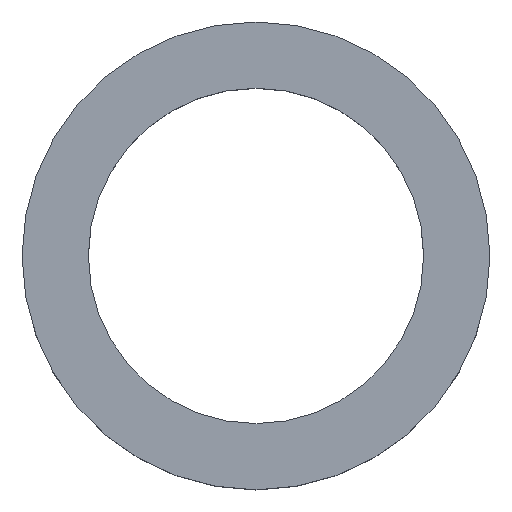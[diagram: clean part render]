
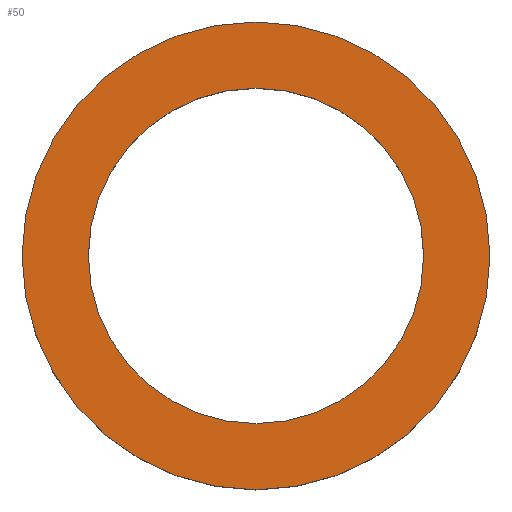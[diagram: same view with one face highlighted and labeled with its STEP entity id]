
A CAD part, top view. The second image highlights one B-rep face of the part: STEP entity #50.
In plain terms, the highlighted planar face has unit normal (0, 0, 1).
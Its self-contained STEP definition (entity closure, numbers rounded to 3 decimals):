
#21 = EDGE_CURVE('',#22,#22,#24,.T.);
#22 = VERTEX_POINT('',#23);
#23 = CARTESIAN_POINT('',(16.435,-13.435,22.));
#24 = CIRCLE('',#25,3.);
#25 = AXIS2_PLACEMENT_3D('',#26,#27,#28);
#26 = CARTESIAN_POINT('',(13.435,-13.435,22.));
#27 = DIRECTION('',(0.,0.,1.));
#28 = DIRECTION('',(1.,0.,0.));
#50 = ADVANCED_FACE('',(#51,#54),#65,.T.);
#51 = FACE_BOUND('',#52,.T.);
#52 = EDGE_LOOP('',(#53));
#53 = ORIENTED_EDGE('',*,*,#21,.T.);
#54 = FACE_BOUND('',#55,.T.);
#55 = EDGE_LOOP('',(#56));
#56 = ORIENTED_EDGE('',*,*,#57,.F.);
#57 = EDGE_CURVE('',#58,#58,#60,.T.);
#58 = VERTEX_POINT('',#59);
#59 = CARTESIAN_POINT('',(15.585,-13.435,22.));
#60 = CIRCLE('',#61,2.15);
#61 = AXIS2_PLACEMENT_3D('',#62,#63,#64);
#62 = CARTESIAN_POINT('',(13.435,-13.435,22.));
#63 = DIRECTION('',(0.,0.,1.));
#64 = DIRECTION('',(1.,0.,0.));
#65 = PLANE('',#66);
#66 = AXIS2_PLACEMENT_3D('',#67,#68,#69);
#67 = CARTESIAN_POINT('',(13.435,-13.435,22.));
#68 = DIRECTION('',(0.,0.,1.));
#69 = DIRECTION('',(1.,0.,0.));
